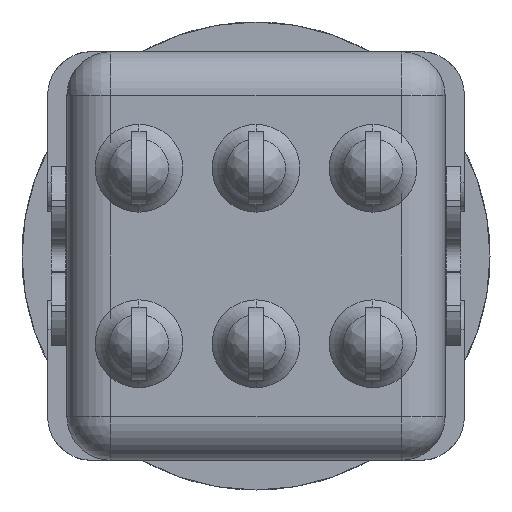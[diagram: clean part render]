
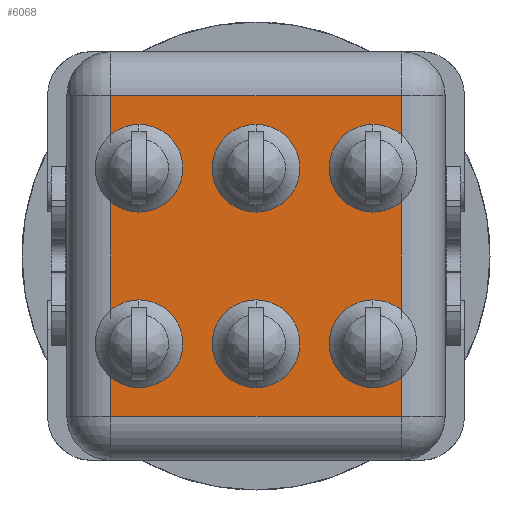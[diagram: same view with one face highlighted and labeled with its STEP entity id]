
A CAD part, front view. The second image highlights one B-rep face of the part: STEP entity #6068.
In plain terms, the highlighted planar face has unit normal (0, -1, 0).
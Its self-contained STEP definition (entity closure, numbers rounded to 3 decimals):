
#1033=DIRECTION('',(0.,0.,1.));
#1034=VECTOR('',#1033,1.337);
#1035=CARTESIAN_POINT('',(4.965,-6.5,4.148));
#1036=LINE('',#1035,#1034);
#1041=DIRECTION('',(0.,0.,1.));
#1042=VECTOR('',#1041,1.337);
#1043=CARTESIAN_POINT('',(4.965,-6.5,-5.485));
#1044=LINE('',#1043,#1042);
#1049=DIRECTION('',(0.,0.,1.));
#1050=VECTOR('',#1049,3.703);
#1051=CARTESIAN_POINT('',(4.965,-6.5,-1.852));
#1052=LINE('',#1051,#1050);
#1095=CARTESIAN_POINT('',(-4.,-6.5,3.));
#1096=DIRECTION('',(0.,-1.,0.));
#1097=DIRECTION('',(0.,0.,-1.));
#1098=AXIS2_PLACEMENT_3D('',#1095,#1096,#1097);
#1100=CARTESIAN_POINT('',(-4.,-6.5,3.));
#1101=DIRECTION('',(0.,-1.,0.));
#1102=DIRECTION('',(0.,0.,1.));
#1103=AXIS2_PLACEMENT_3D('',#1100,#1101,#1102);
#1105=CARTESIAN_POINT('',(4.,-6.5,3.));
#1106=DIRECTION('',(0.,-1.,0.));
#1107=DIRECTION('',(0.643,0.,0.766));
#1108=AXIS2_PLACEMENT_3D('',#1105,#1106,#1107);
#1110=CARTESIAN_POINT('',(4.,-6.5,3.));
#1111=DIRECTION('',(0.,-1.,0.));
#1112=DIRECTION('',(0.,0.,1.));
#1113=AXIS2_PLACEMENT_3D('',#1110,#1111,#1112);
#1115=CARTESIAN_POINT('',(4.,-6.5,3.));
#1116=DIRECTION('',(0.,-1.,0.));
#1117=DIRECTION('',(0.,0.,-1.));
#1118=AXIS2_PLACEMENT_3D('',#1115,#1116,#1117);
#1120=CARTESIAN_POINT('',(4.,-6.5,-3.));
#1121=DIRECTION('',(0.,-1.,0.));
#1122=DIRECTION('',(0.643,0.,0.766));
#1123=AXIS2_PLACEMENT_3D('',#1120,#1121,#1122);
#1125=CARTESIAN_POINT('',(4.,-6.5,-3.));
#1126=DIRECTION('',(0.,-1.,0.));
#1127=DIRECTION('',(0.,0.,1.));
#1128=AXIS2_PLACEMENT_3D('',#1125,#1126,#1127);
#1130=CARTESIAN_POINT('',(4.,-6.5,-3.));
#1131=DIRECTION('',(0.,-1.,0.));
#1132=DIRECTION('',(0.,0.,-1.));
#1133=AXIS2_PLACEMENT_3D('',#1130,#1131,#1132);
#1135=CARTESIAN_POINT('',(-4.,-6.5,-3.));
#1136=DIRECTION('',(0.,-1.,0.));
#1137=DIRECTION('',(-0.643,0.,-0.766));
#1138=AXIS2_PLACEMENT_3D('',#1135,#1136,#1137);
#1140=CARTESIAN_POINT('',(-4.,-6.5,-3.));
#1141=DIRECTION('',(0.,-1.,0.));
#1142=DIRECTION('',(0.,0.,-1.));
#1143=AXIS2_PLACEMENT_3D('',#1140,#1141,#1142);
#1145=CARTESIAN_POINT('',(-4.,-6.5,-3.));
#1146=DIRECTION('',(0.,-1.,0.));
#1147=DIRECTION('',(0.,0.,1.));
#1148=AXIS2_PLACEMENT_3D('',#1145,#1146,#1147);
#1150=CARTESIAN_POINT('',(-4.,-6.5,3.));
#1151=DIRECTION('',(0.,-1.,0.));
#1152=DIRECTION('',(-0.643,0.,-0.766));
#1153=AXIS2_PLACEMENT_3D('',#1150,#1151,#1152);
#1238=DIRECTION('',(0.,0.,-1.));
#1239=VECTOR('',#1238,3.703);
#1240=CARTESIAN_POINT('',(-4.965,-6.5,1.852));
#1241=LINE('',#1240,#1239);
#1246=DIRECTION('',(0.,0.,-1.));
#1247=VECTOR('',#1246,1.337);
#1248=CARTESIAN_POINT('',(-4.965,-6.5,-4.148));
#1249=LINE('',#1248,#1247);
#1254=DIRECTION('',(0.,0.,-1.));
#1255=VECTOR('',#1254,1.337);
#1256=CARTESIAN_POINT('',(-4.965,-6.5,5.485));
#1257=LINE('',#1256,#1255);
#1833=DIRECTION('',(-1.,0.,0.));
#1834=VECTOR('',#1833,9.93);
#1835=CARTESIAN_POINT('',(4.965,-6.5,5.485));
#1836=LINE('',#1835,#1834);
#1938=DIRECTION('',(1.,0.,0.));
#1939=VECTOR('',#1938,9.93);
#1940=CARTESIAN_POINT('',(-4.965,-6.5,-5.485));
#1941=LINE('',#1940,#1939);
#4562=CARTESIAN_POINT('',(4.965,-6.5,5.485));
#4563=VERTEX_POINT('',#4562);
#4564=CARTESIAN_POINT('',(4.965,-6.5,1.852));
#4565=CARTESIAN_POINT('',(4.965,-6.5,4.148));
#4566=VERTEX_POINT('',#4564);
#4567=VERTEX_POINT('',#4565);
#4568=CARTESIAN_POINT('',(4.965,-6.5,-5.485));
#4569=VERTEX_POINT('',#4568);
#4570=CARTESIAN_POINT('',(4.965,-6.5,-4.148));
#4571=VERTEX_POINT('',#4570);
#4572=CARTESIAN_POINT('',(4.965,-6.5,-1.852));
#4573=VERTEX_POINT('',#4572);
#4574=CARTESIAN_POINT('',(4.,-6.5,4.5));
#4575=VERTEX_POINT('',#4574);
#4576=CARTESIAN_POINT('',(4.,-6.5,1.5));
#4577=VERTEX_POINT('',#4576);
#4586=CARTESIAN_POINT('',(-4.,-6.5,1.5));
#4587=CARTESIAN_POINT('',(-4.,-6.5,4.5));
#4588=VERTEX_POINT('',#4586);
#4589=VERTEX_POINT('',#4587);
#4590=CARTESIAN_POINT('',(-4.965,-6.5,4.148));
#4591=VERTEX_POINT('',#4590);
#4592=CARTESIAN_POINT('',(-4.965,-6.5,5.485));
#4593=VERTEX_POINT('',#4592);
#4594=CARTESIAN_POINT('',(4.,-6.5,-1.5));
#4595=VERTEX_POINT('',#4594);
#4596=CARTESIAN_POINT('',(4.,-6.5,-4.5));
#4597=VERTEX_POINT('',#4596);
#4598=CARTESIAN_POINT('',(-4.965,-6.5,-5.485));
#4599=VERTEX_POINT('',#4598);
#4600=CARTESIAN_POINT('',(-4.965,-6.5,-4.148));
#4601=VERTEX_POINT('',#4600);
#4602=CARTESIAN_POINT('',(-4.,-6.5,-4.5));
#4603=VERTEX_POINT('',#4602);
#4604=CARTESIAN_POINT('',(-4.,-6.5,-1.5));
#4605=VERTEX_POINT('',#4604);
#4606=CARTESIAN_POINT('',(-4.965,-6.5,-1.852));
#4607=VERTEX_POINT('',#4606);
#4608=CARTESIAN_POINT('',(-4.965,-6.5,1.852));
#4609=VERTEX_POINT('',#4608);
#6026=CARTESIAN_POINT('',(-6.465,-6.5,-6.985));
#6027=DIRECTION('',(0.,-1.,0.));
#6028=DIRECTION('',(1.,0.,0.));
#6029=AXIS2_PLACEMENT_3D('',#6026,#6027,#6028);
#6030=PLANE('',#6029);
#6032=ORIENTED_EDGE('',*,*,#6031,.T.);
#6034=ORIENTED_EDGE('',*,*,#6033,.T.);
#6036=ORIENTED_EDGE('',*,*,#6035,.F.);
#6038=ORIENTED_EDGE('',*,*,#6037,.F.);
#6039=ORIENTED_EDGE('',*,*,#5983,.F.);
#6040=ORIENTED_EDGE('',*,*,#6003,.T.);
#6042=ORIENTED_EDGE('',*,*,#6041,.T.);
#6043=ORIENTED_EDGE('',*,*,#6007,.T.);
#6044=ORIENTED_EDGE('',*,*,#5993,.F.);
#6046=ORIENTED_EDGE('',*,*,#6045,.T.);
#6048=ORIENTED_EDGE('',*,*,#6047,.T.);
#6050=ORIENTED_EDGE('',*,*,#6049,.T.);
#6051=ORIENTED_EDGE('',*,*,#5989,.F.);
#6053=ORIENTED_EDGE('',*,*,#6052,.F.);
#6055=ORIENTED_EDGE('',*,*,#6054,.F.);
#6057=ORIENTED_EDGE('',*,*,#6056,.T.);
#6059=ORIENTED_EDGE('',*,*,#6058,.T.);
#6061=ORIENTED_EDGE('',*,*,#6060,.T.);
#6063=ORIENTED_EDGE('',*,*,#6062,.F.);
#6065=ORIENTED_EDGE('',*,*,#6064,.T.);
#6066=EDGE_LOOP('',(#6032,#6034,#6036,#6038,#6039,#6040,#6042,#6043,#6044,#6046,
#6048,#6050,#6051,#6053,#6055,#6057,#6059,#6061,#6063,#6065));
#6067=FACE_OUTER_BOUND('',#6066,.F.);
#6068=ADVANCED_FACE('',(#6067),#6030,.T.);
#1099=CIRCLE('',#1098,1.5);
#1104=CIRCLE('',#1103,1.5);
#1109=CIRCLE('',#1108,1.5);
#1114=CIRCLE('',#1113,1.5);
#1119=CIRCLE('',#1118,1.5);
#1124=CIRCLE('',#1123,1.5);
#1129=CIRCLE('',#1128,1.5);
#1134=CIRCLE('',#1133,1.5);
#1139=CIRCLE('',#1138,1.5);
#1144=CIRCLE('',#1143,1.5);
#1149=CIRCLE('',#1148,1.5);
#1154=CIRCLE('',#1153,1.5);
#5983=EDGE_CURVE('',#4567,#4563,#1036,.T.);
#5989=EDGE_CURVE('',#4569,#4571,#1044,.T.);
#5993=EDGE_CURVE('',#4573,#4566,#1052,.T.);
#6003=EDGE_CURVE('',#4567,#4575,#1109,.T.);
#6007=EDGE_CURVE('',#4577,#4566,#1119,.T.);
#6031=EDGE_CURVE('',#4588,#4589,#1099,.T.);
#6033=EDGE_CURVE('',#4589,#4591,#1104,.T.);
#6035=EDGE_CURVE('',#4593,#4591,#1257,.T.);
#6037=EDGE_CURVE('',#4563,#4593,#1836,.T.);
#6041=EDGE_CURVE('',#4575,#4577,#1114,.T.);
#6045=EDGE_CURVE('',#4573,#4595,#1124,.T.);
#6047=EDGE_CURVE('',#4595,#4597,#1129,.T.);
#6049=EDGE_CURVE('',#4597,#4571,#1134,.T.);
#6052=EDGE_CURVE('',#4599,#4569,#1941,.T.);
#6054=EDGE_CURVE('',#4601,#4599,#1249,.T.);
#6056=EDGE_CURVE('',#4601,#4603,#1139,.T.);
#6058=EDGE_CURVE('',#4603,#4605,#1144,.T.);
#6060=EDGE_CURVE('',#4605,#4607,#1149,.T.);
#6062=EDGE_CURVE('',#4609,#4607,#1241,.T.);
#6064=EDGE_CURVE('',#4609,#4588,#1154,.T.);
